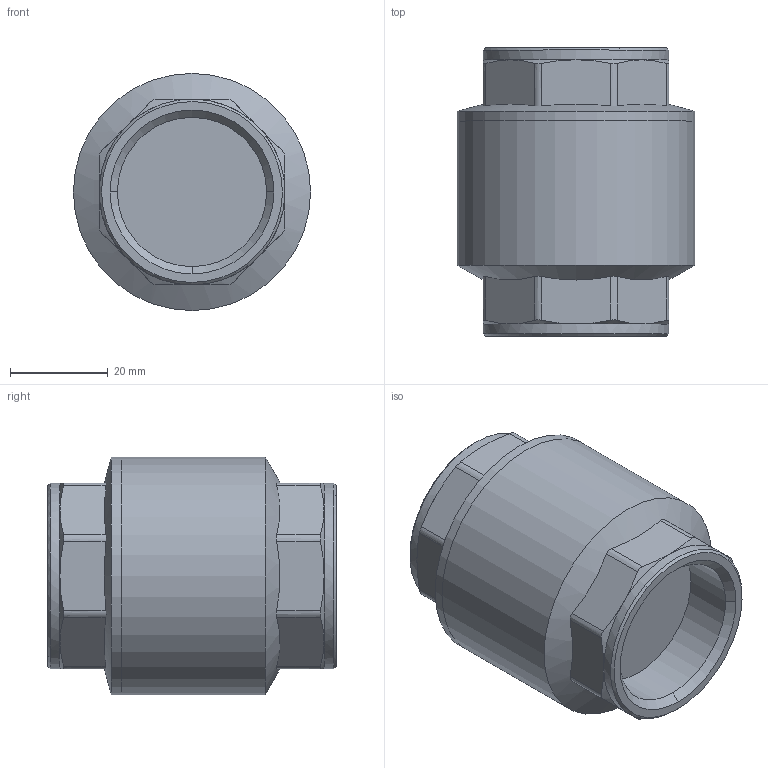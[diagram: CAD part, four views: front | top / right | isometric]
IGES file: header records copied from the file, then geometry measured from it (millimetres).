
Start section: SolidWorks IGES file using analytic representation for surfaces
Global section: file name: K:\Disegni Esecutivi\ACCESSORI\6036\6036_step\0603600003A.IGS; native system: SolidWorks 2012; preprocessor: SolidWorks 2012; author: cad05; date: 131210.111853; units: millimetre
Bounding box: 48.5 x 59 x 48.5 mm (x, y, z)
Surface area: 17141.7 mm2 (no closed solid volume)
Topology: 0 solids, 0 shells, 73 faces, 358 edges, 350 vertices
Faces by surface type: revolution 51, bspline 22
